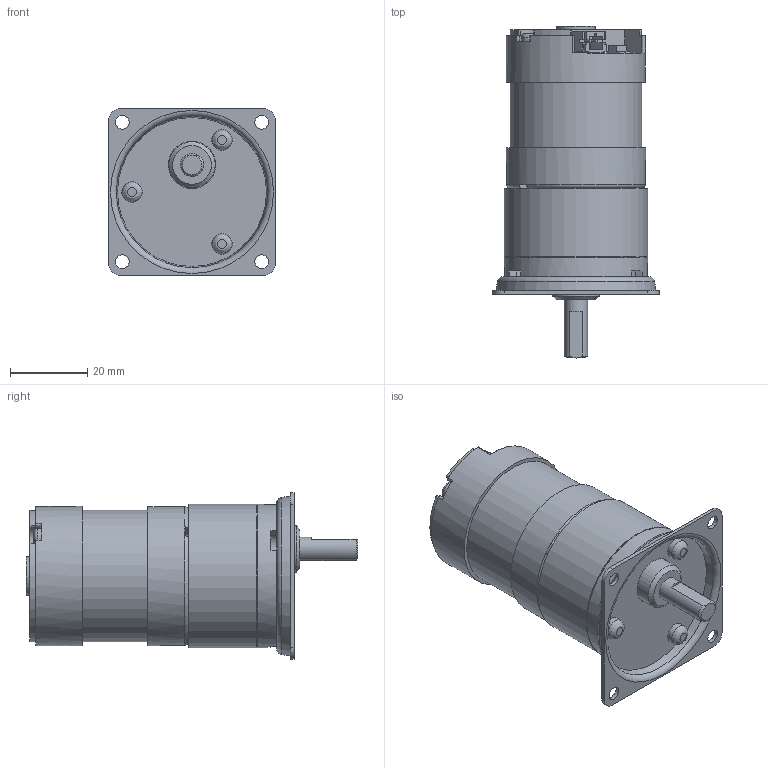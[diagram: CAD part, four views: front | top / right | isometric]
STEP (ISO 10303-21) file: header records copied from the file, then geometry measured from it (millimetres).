
FILE_DESCRIPTION((''),'2;1');
FILE_NAME('\\Servert1600\threepeace\2015homepage\STP\HP-Data_GM_3D_STEP\TP-3641AA,BA,CA,DA,EA(ドライバ内蔵)-PJ-15～30-P00-12,24.stp','2016-11-11T13:10:47',('Administrator'),(''),'Autodesk Inventor 2010','Autodesk Inventor 2010','');
FILE_SCHEMA(('AUTOMOTIVE_DESIGN { 1 0 10303 214 1 1 1 1 }'));
Length unit declared in the file: millimetre
Products named in the file (7): TP-3641AA,BA,CA,DA,EA(ドライバ内蔵)-PJ-15～30-P00-12,24; KJ-3; □43; TP-3641AA,BA,CA-24; TP-3641BA,l; S2B-PH-SM4-TB; SMD-TRIMMERS
Assembly tree (6 placements, depth 3):
  TP-3641AA,BA,CA,DA,EA(ドライバ内蔵)-PJ-15～30-P00-12,24
    KJ-3
    □43
    TP-3641AA,BA,CA-24
      TP-3641BA,l
      S2B-PH-SM4-TB
      SMD-TRIMMERS
Bounding box: 43 x 85.8 x 43 mm (x, y, z)
Volume: 65795.2 mm3; surface area: 17912.9 mm2
Topology: 6 solids, 6 shells, 272 faces, 708 edges, 468 vertices
Faces by surface type: plane 163, cylinder 54, bspline 44, torus 6, cone 5
Full cylindrical faces by diameter (mm): 1.9 x1, 2.5 x2, 5 x1, 5.3 x3, 6 x1, 10 x2, 12 x1, 12.2 x1, 34.1 x1, 36 x2, 36.6 x1, 37 x2
Entity records: 8673 total; most frequent: CARTESIAN_POINT 2188, DIRECTION 1259, ORIENTED_EDGE 1192, EDGE_CURVE 596, AXIS2_PLACEMENT_3D 428, VERTEX_POINT 425, VECTOR 403, LINE 403
